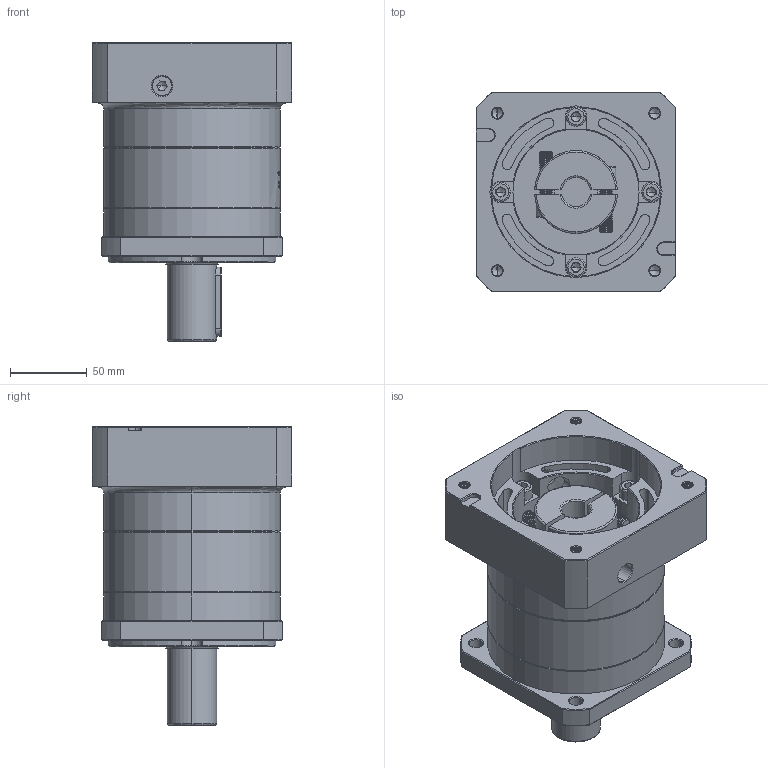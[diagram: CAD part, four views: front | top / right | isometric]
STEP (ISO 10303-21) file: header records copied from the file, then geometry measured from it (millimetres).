
FILE_DESCRIPTION (( 'STEP AP214' ), '1' );
FILE_NAME ('ZF120A-D32-L1-19-110-145-M8.step', '2023-03-07T09:31:56', ( '' ), ( '' ), 'SwSTEP 2.0', 'SolidWorks 2016', '' );
FILE_SCHEMA (( 'AUTOMOTIVE_DESIGN' ));
Length unit declared in the file: millimetre
Products named in the file (1): ZF120A-D32-L1-19-110-145-M8
Bounding box: 130 x 130 x 194 mm (x, y, z)
Volume: 1472655.6 mm3; surface area: 183013.3 mm2
Topology: 6 solids, 6 shells, 2001 faces, 5274 edges, 3365 vertices
Faces by surface type: plane 883, cylinder 449, cone 327, bspline 323, torus 19
Entity records: 110596 total; most frequent: CARTESIAN_POINT 42942, ORIENTED_EDGE 10488, DIRECTION 8163, EDGE_CURVE 5244, VERTEX_POINT 3365, VECTOR 2823, LINE 2823, AXIS2_PLACEMENT_3D 2670
